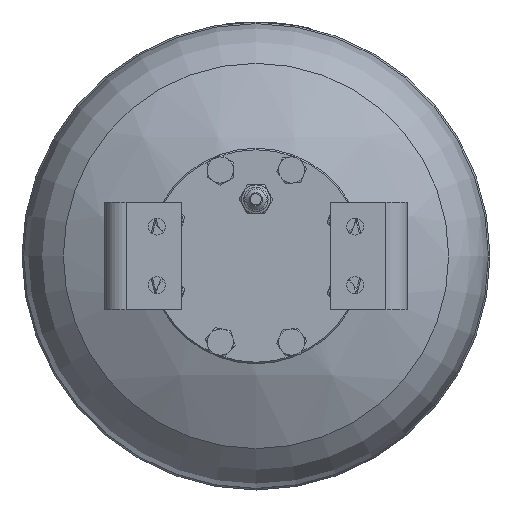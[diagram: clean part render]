
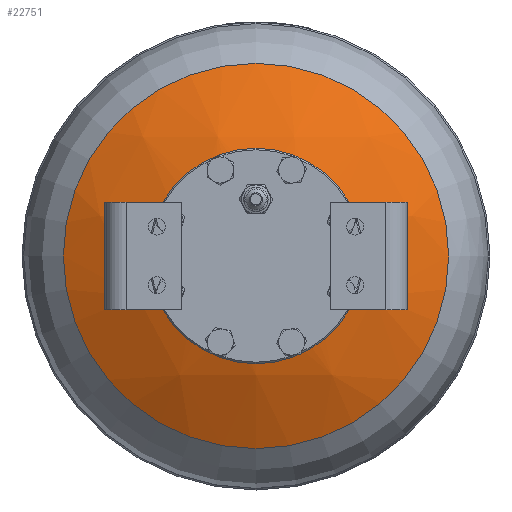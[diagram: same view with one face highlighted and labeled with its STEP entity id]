
A CAD part, front view. The second image highlights one B-rep face of the part: STEP entity #22751.
In plain terms, the highlighted spherical face has radius 244 mm.
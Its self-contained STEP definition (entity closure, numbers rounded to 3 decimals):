
#23=SPHERICAL_SURFACE('',#24442,244.);
#1187=FACE_BOUND('',#5138,.T.);
#3700=FACE_OUTER_BOUND('',#5137,.T.);
#5137=EDGE_LOOP('',(#20071));
#5138=EDGE_LOOP('',(#20072));
#8919=CIRCLE('',#24337,54.396);
#8978=CIRCLE('',#24443,125.194);
#10906=VERTEX_POINT('',#45551);
#11023=VERTEX_POINT('',#45964);
#13999=EDGE_CURVE('',#10906,#10906,#8919,.T.);
#14152=EDGE_CURVE('',#11023,#11023,#8978,.T.);
#20071=ORIENTED_EDGE('',*,*,#14152,.F.);
#20072=ORIENTED_EDGE('',*,*,#13999,.T.);
#22751=ADVANCED_FACE('',(#3700,#1187),#23,.T.);
#24337=AXIS2_PLACEMENT_3D('',#45552,#28733,#28734);
#24442=AXIS2_PLACEMENT_3D('',#45963,#28989,#28990);
#24443=AXIS2_PLACEMENT_3D('',#45965,#28991,#28992);
#28733=DIRECTION('center_axis',(0.,1.,0.));
#28734=DIRECTION('ref_axis',(0.,0.,1.));
#28989=DIRECTION('center_axis',(0.,0.,
1.));
#28990=DIRECTION('ref_axis',(-1.,0.,0.));
#28991=DIRECTION('center_axis',(0.,1.,0.));
#28992=DIRECTION('ref_axis',(1.,0.,0.));
#45551=CARTESIAN_POINT('',(0.,-154.059,-54.396));
#45552=CARTESIAN_POINT('Origin',(0.,-154.059,0.));
#45963=CARTESIAN_POINT('Origin',(0.,83.8,
0.));
#45964=CARTESIAN_POINT('',(125.194,-125.634,0.));
#45965=CARTESIAN_POINT('Origin',(0.,-125.634,
0.));
